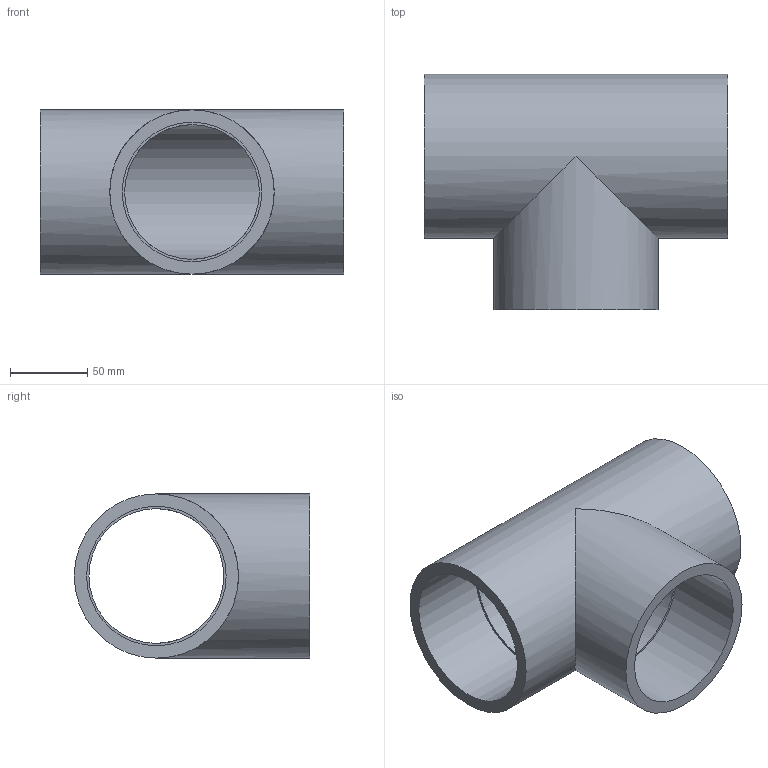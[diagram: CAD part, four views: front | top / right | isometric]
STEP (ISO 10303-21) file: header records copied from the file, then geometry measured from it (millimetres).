
FILE_DESCRIPTION(/* description */ ('PVC ti a 90° incollaggio metrico'),/* implementation_level */ '2;1');
FILE_NAME(/* name */ 'C:\Users\POLYPIPE\Desktop\DATASET INVENTOR\LIBRERIA EFFAST\RACCORDI 3DxWEB\RDR\3D_RDRTID\3D_RDRTID0900.stp',/* time_stamp */ '2018-01-19T15:38:42+01:00',/* author */ ('POLYPIPE'),/* organization */ ('Polypipe Italia s.r.l.'),/* preprocessor_version */ 'ST-DEVELOPER v16.1',/* originating_system */ 'Autodesk Inventor 2016',/* authorisation */ '');
FILE_SCHEMA (('CONFIG_CONTROL_DESIGN'));
Length unit declared in the file: millimetre
Products named in the file (1): 3D_RDRTID
Bounding box: 196 x 152 x 106 mm (x, y, z)
Volume: 607052.8 mm3; surface area: 151367 mm2
Topology: 1 solids, 1 shells, 13 faces, 25 edges, 18 vertices
Faces by surface type: cylinder 7, plane 6
Full cylindrical faces by diameter (mm): 87 x2, 90 x3, 106 x2
Entity records: 326 total; most frequent: DIRECTION 60, CARTESIAN_POINT 46, ORIENTED_EDGE 32, AXIS2_PLACEMENT_3D 30, EDGE_LOOP 28, VERTEX_POINT 16, EDGE_CURVE 16, FACE_BOUND 15
